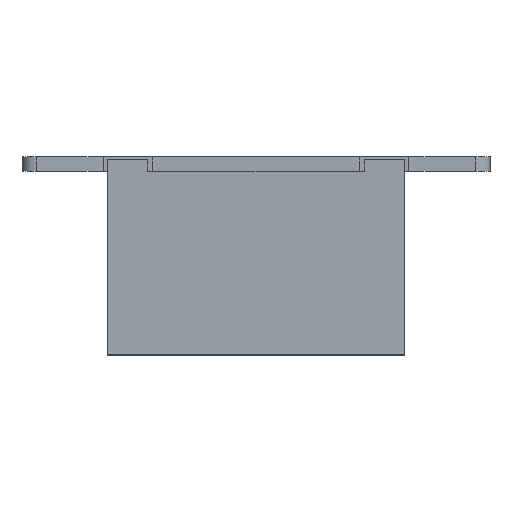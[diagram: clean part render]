
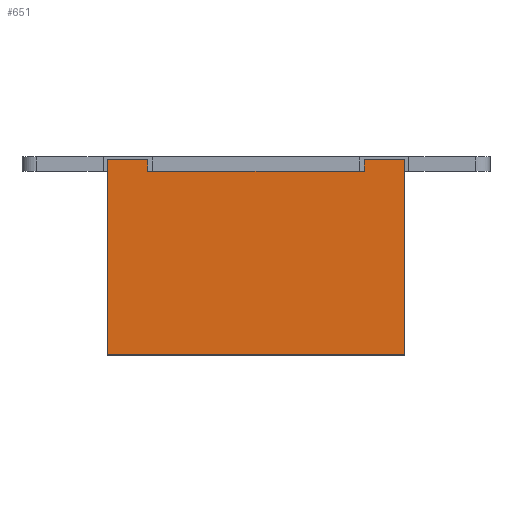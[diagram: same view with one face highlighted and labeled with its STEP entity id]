
A CAD part, top view. The second image highlights one B-rep face of the part: STEP entity #651.
In plain terms, the highlighted planar face has unit normal (0, 0, 1).
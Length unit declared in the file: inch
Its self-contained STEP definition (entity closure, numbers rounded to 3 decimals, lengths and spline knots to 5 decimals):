
#20 = VERTEX_POINT ( 'NONE', #1439 ) ;
#65 = LINE ( 'NONE', #1065, #2037 ) ;
#116 = EDGE_CURVE ( 'NONE', #2393, #1426, #1688, .T. ) ;
#151 = DIRECTION ( 'NONE',  ( 0., 0., -1. ) ) ;
#170 = CARTESIAN_POINT ( 'NONE',  ( -1.03125, -0.02, 0.4375 ) ) ;
#172 = CARTESIAN_POINT ( 'NONE',  ( 1.03125, -0.02, 0.4375 ) ) ;
#175 = DIRECTION ( 'NONE',  ( -1., 0., 0. ) ) ;
#182 = CARTESIAN_POINT ( 'NONE',  ( -0.75025, -0.1, 0.4375 ) ) ;
#257 = VECTOR ( 'NONE', #1310, 39.37008 ) ;
#330 = LINE ( 'NONE', #867, #1543 ) ;
#365 = LINE ( 'NONE', #1886, #1875 ) ;
#368 = EDGE_LOOP ( 'NONE', ( #909, #869, #1096, #1961, #1944, #601, #903, #1433 ) ) ;
#419 = VECTOR ( 'NONE', #747, 39.37008 ) ;
#456 = VERTEX_POINT ( 'NONE', #1933 ) ;
#473 = CARTESIAN_POINT ( 'NONE',  ( -1.03125, -1.375, 0.4375 ) ) ;
#476 = LINE ( 'NONE', #2267, #419 ) ;
#520 = VERTEX_POINT ( 'NONE', #642 ) ;
#601 = ORIENTED_EDGE ( 'NONE', *, *, #1282, .T. ) ;
#631 = DIRECTION ( 'NONE',  ( -1., 0., 0. ) ) ;
#642 = CARTESIAN_POINT ( 'NONE',  ( 0.75025, -0.1, 0.4375 ) ) ;
#651 = ADVANCED_FACE ( 'NONE', ( #1398 ), #1678, .F. ) ;
#680 = DIRECTION ( 'NONE',  ( 0., -1., 0. ) ) ;
#747 = DIRECTION ( 'NONE',  ( 0., -1., 0. ) ) ;
#780 = EDGE_CURVE ( 'NONE', #1426, #939, #868, .T. ) ;
#867 = CARTESIAN_POINT ( 'NONE',  ( -1.03125, -1.375, 0.4375 ) ) ;
#868 = LINE ( 'NONE', #170, #1063 ) ;
#869 = ORIENTED_EDGE ( 'NONE', *, *, #1352, .F. ) ;
#903 = ORIENTED_EDGE ( 'NONE', *, *, #1707, .T. ) ;
#909 = ORIENTED_EDGE ( 'NONE', *, *, #780, .T. ) ;
#939 = VERTEX_POINT ( 'NONE', #1864 ) ;
#980 = EDGE_CURVE ( 'NONE', #1890, #520, #2010, .T. ) ;
#1011 = CARTESIAN_POINT ( 'NONE',  ( 1.03125, -1.375, 0.4375 ) ) ;
#1059 = VECTOR ( 'NONE', #1277, 39.37008 ) ;
#1063 = VECTOR ( 'NONE', #175, 39.37008 ) ;
#1065 = CARTESIAN_POINT ( 'NONE',  ( -1.03125, -0.02, 0.4375 ) ) ;
#1096 = ORIENTED_EDGE ( 'NONE', *, *, #980, .F. ) ;
#1106 = VERTEX_POINT ( 'NONE', #473 ) ;
#1173 = LINE ( 'NONE', #1851, #1059 ) ;
#1277 = DIRECTION ( 'NONE',  ( 1., 0., 0. ) ) ;
#1282 = EDGE_CURVE ( 'NONE', #20, #1106, #330, .T. ) ;
#1310 = DIRECTION ( 'NONE',  ( 0., 1., 0. ) ) ;
#1352 = EDGE_CURVE ( 'NONE', #520, #939, #365, .T. ) ;
#1398 = FACE_OUTER_BOUND ( 'NONE', #368, .T. ) ;
#1426 = VERTEX_POINT ( 'NONE', #172 ) ;
#1433 = ORIENTED_EDGE ( 'NONE', *, *, #116, .T. ) ;
#1439 = CARTESIAN_POINT ( 'NONE',  ( -1.03125, -0.02, 0.4375 ) ) ;
#1451 = EDGE_CURVE ( 'NONE', #456, #1890, #476, .T. ) ;
#1543 = VECTOR ( 'NONE', #680, 39.37008 ) ;
#1617 = EDGE_CURVE ( 'NONE', #456, #20, #65, .T. ) ;
#1651 = VECTOR ( 'NONE', #1758, 39.37008 ) ;
#1673 = DIRECTION ( 'NONE',  ( 0., 1., 0. ) ) ;
#1678 = PLANE ( 'NONE',  #2176 ) ;
#1688 = LINE ( 'NONE', #1844, #257 ) ;
#1707 = EDGE_CURVE ( 'NONE', #1106, #2393, #1173, .T. ) ;
#1758 = DIRECTION ( 'NONE',  ( 1., 0., 0. ) ) ;
#1844 = CARTESIAN_POINT ( 'NONE',  ( 1.03125, -1.375, 0.4375 ) ) ;
#1851 = CARTESIAN_POINT ( 'NONE',  ( -1.03125, -1.375, 0.4375 ) ) ;
#1860 = CARTESIAN_POINT ( 'NONE',  ( 1.03125, -0.02, 0.4375 ) ) ;
#1864 = CARTESIAN_POINT ( 'NONE',  ( 0.75025, -0.02, 0.4375 ) ) ;
#1866 = DIRECTION ( 'NONE',  ( 0., 1., 0. ) ) ;
#1875 = VECTOR ( 'NONE', #1673, 39.37008 ) ;
#1886 = CARTESIAN_POINT ( 'NONE',  ( 0.75025, -0.02, 0.4375 ) ) ;
#1890 = VERTEX_POINT ( 'NONE', #1908 ) ;
#1908 = CARTESIAN_POINT ( 'NONE',  ( -0.75025, -0.1, 0.4375 ) ) ;
#1933 = CARTESIAN_POINT ( 'NONE',  ( -0.75025, -0.02, 0.4375 ) ) ;
#1944 = ORIENTED_EDGE ( 'NONE', *, *, #1617, .T. ) ;
#1961 = ORIENTED_EDGE ( 'NONE', *, *, #1451, .F. ) ;
#2010 = LINE ( 'NONE', #182, #1651 ) ;
#2037 = VECTOR ( 'NONE', #631, 39.37008 ) ;
#2176 = AXIS2_PLACEMENT_3D ( 'NONE', #1860, #151, #1866 ) ;
#2267 = CARTESIAN_POINT ( 'NONE',  ( -0.75025, -0.02, 0.4375 ) ) ;
#2393 = VERTEX_POINT ( 'NONE', #1011 ) ;
